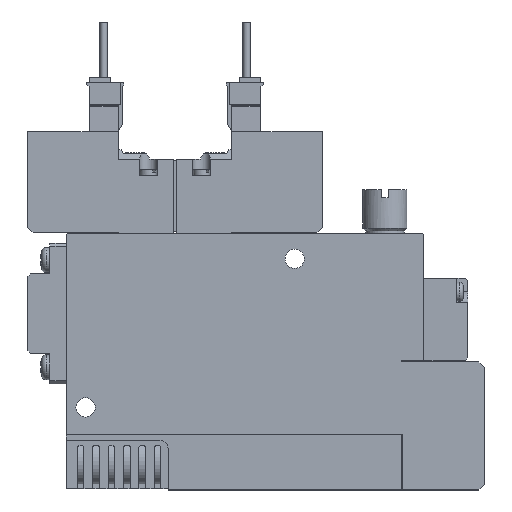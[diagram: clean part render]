
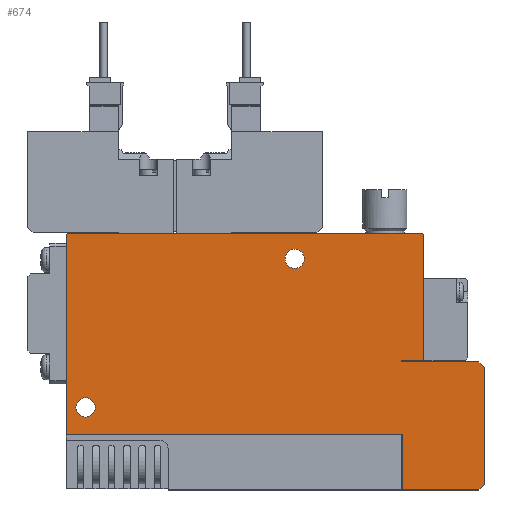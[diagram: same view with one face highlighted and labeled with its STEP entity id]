
A CAD part, top view. The second image highlights one B-rep face of the part: STEP entity #674.
In plain terms, the highlighted planar face has unit normal (0, 0, 1).
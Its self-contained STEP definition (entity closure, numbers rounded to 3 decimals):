
#674=ADVANCED_FACE('',(#1517,#1518,#1519),#1520,.F.);
#1517=FACE_OUTER_BOUND('',#2477,.T.);
#1518=FACE_BOUND('',#2478,.T.);
#1519=FACE_BOUND('',#2479,.T.);
#1520=PLANE('',#2480);
#2477=EDGE_LOOP('',(#5620,#5621,#5622,#5623,#5624,#5625,#5626,#5627,#5628,#5629,#5630,#5631,#5632,#5633));
#2478=EDGE_LOOP('',(#5634));
#2479=EDGE_LOOP('',(#5635));
#2480=AXIS2_PLACEMENT_3D('',#5636,#5637,#5638);
#5620=ORIENTED_EDGE('',*,*,#7233,.T.);
#5621=ORIENTED_EDGE('',*,*,#7408,.F.);
#5622=ORIENTED_EDGE('',*,*,#7409,.F.);
#5623=ORIENTED_EDGE('',*,*,#7410,.T.);
#5624=ORIENTED_EDGE('',*,*,#7406,.T.);
#5625=ORIENTED_EDGE('',*,*,#7399,.T.);
#5626=ORIENTED_EDGE('',*,*,#7215,.T.);
#5627=ORIENTED_EDGE('',*,*,#7411,.T.);
#5628=ORIENTED_EDGE('',*,*,#7412,.T.);
#5629=ORIENTED_EDGE('',*,*,#7413,.T.);
#5630=ORIENTED_EDGE('',*,*,#7150,.T.);
#5631=ORIENTED_EDGE('',*,*,#7094,.T.);
#5632=ORIENTED_EDGE('',*,*,#7154,.T.);
#5633=ORIENTED_EDGE('',*,*,#7209,.T.);
#5634=ORIENTED_EDGE('',*,*,#7414,.F.);
#5635=ORIENTED_EDGE('',*,*,#7415,.F.);
#5636=CARTESIAN_POINT('',(0.0,0.0,5.0));
#5637=DIRECTION('',(0.0,0.0,-1.0));
#5638=DIRECTION('',(0.0,-1.0,0.0));
#7094=EDGE_CURVE('',#8754,#8752,#8755,.T.);
#7150=EDGE_CURVE('',#8859,#8754,#8860,.T.);
#7154=EDGE_CURVE('',#8752,#8864,#8866,.T.);
#7209=EDGE_CURVE('',#8864,#8967,#8969,.T.);
#7215=EDGE_CURVE('',#8979,#8977,#8980,.T.);
#7233=EDGE_CURVE('',#8967,#9010,#9012,.T.);
#7399=EDGE_CURVE('',#9280,#8979,#9281,.T.);
#7406=EDGE_CURVE('',#9290,#9280,#9291,.T.);
#7408=EDGE_CURVE('',#9293,#9010,#9294,.T.);
#7409=EDGE_CURVE('',#9295,#9293,#9296,.T.);
#7410=EDGE_CURVE('',#9295,#9290,#9297,.T.);
#7411=EDGE_CURVE('',#8977,#9298,#9299,.T.);
#7412=EDGE_CURVE('',#9298,#9300,#9301,.T.);
#7413=EDGE_CURVE('',#9300,#8859,#9302,.T.);
#7414=EDGE_CURVE('',#9303,#9303,#9304,.T.);
#7415=EDGE_CURVE('',#9305,#9305,#9306,.T.);
#8752=VERTEX_POINT('',#11438);
#8754=VERTEX_POINT('',#11441);
#8755=LINE('',#11442,#11443);
#8859=VERTEX_POINT('',#11667);
#8860=LINE('',#11668,#11669);
#8864=VERTEX_POINT('',#11675);
#8866=LINE('',#11678,#11679);
#8967=VERTEX_POINT('',#11878);
#8969=LINE('',#11881,#11882);
#8977=VERTEX_POINT('',#11893);
#8979=VERTEX_POINT('',#11896);
#8980=LINE('',#11897,#11898);
#9010=VERTEX_POINT('',#11942);
#9012=LINE('',#11945,#11946);
#9280=VERTEX_POINT('',#12352);
#9281=LINE('',#12353,#12354);
#9290=VERTEX_POINT('',#12376);
#9291=LINE('',#12377,#12378);
#9293=VERTEX_POINT('',#12381);
#9294=LINE('',#12382,#12383);
#9295=VERTEX_POINT('',#12384);
#9296=LINE('',#12385,#12386);
#9297=LINE('',#12387,#12388);
#9298=VERTEX_POINT('',#12389);
#9299=LINE('',#12390,#12391);
#9300=VERTEX_POINT('',#12392);
#9301=LINE('',#12393,#12394);
#9302=LINE('',#12395,#12396);
#9303=VERTEX_POINT('',#12397);
#9304=CIRCLE('',#12398,1.75);
#9305=VERTEX_POINT('',#12399);
#9306=CIRCLE('',#12400,1.75);
#11438=CARTESIAN_POINT('',(64.8,46.6,5.0));
#11441=CARTESIAN_POINT('',(65.0,46.4,5.0));
#11442=CARTESIAN_POINT('',(65.0,46.4,5.0));
#11443=VECTOR('',#13792,1.0);
#11667=CARTESIAN_POINT('',(65.0,23.5,5.0));
#11668=CARTESIAN_POINT('',(65.0,23.5,5.0));
#11669=VECTOR('',#13863,1.0);
#11675=CARTESIAN_POINT('',(0.2,46.6,5.0));
#11678=CARTESIAN_POINT('',(64.8,46.6,5.0));
#11679=VECTOR('',#13867,1.0);
#11878=CARTESIAN_POINT('',(0.0,46.4,5.0));
#11881=CARTESIAN_POINT('',(0.2,46.6,5.0));
#11882=VECTOR('',#13943,1.0);
#11893=CARTESIAN_POINT('',(75.0,23.25,5.0));
#11896=CARTESIAN_POINT('',(76.0,22.25,5.0));
#11897=CARTESIAN_POINT('',(76.0,22.25,5.0));
#11898=VECTOR('',#13951,1.0);
#11942=CARTESIAN_POINT('',(0.0,10.1,5.0));
#11945=CARTESIAN_POINT('',(0.0,46.4,5.0));
#11946=VECTOR('',#13973,1.0);
#12352=CARTESIAN_POINT('',(76.0,1.0,5.0));
#12353=CARTESIAN_POINT('',(76.0,1.0,5.0));
#12354=VECTOR('',#14208,1.0);
#12376=CARTESIAN_POINT('',(75.0,0.0,5.0));
#12377=CARTESIAN_POINT('',(75.0,0.0,5.0));
#12378=VECTOR('',#14216,1.0);
#12381=CARTESIAN_POINT('',(61.1,10.1,5.0));
#12382=CARTESIAN_POINT('',(61.1,10.1,5.0));
#12383=VECTOR('',#14218,1.0);
#12384=CARTESIAN_POINT('',(61.1,0.0,5.0));
#12385=CARTESIAN_POINT('',(61.1,0.0,5.0));
#12386=VECTOR('',#14219,1.0);
#12387=CARTESIAN_POINT('',(0.0,0.0,5.0));
#12388=VECTOR('',#14220,1.0);
#12389=CARTESIAN_POINT('',(61.0,23.25,5.0));
#12390=CARTESIAN_POINT('',(75.0,23.25,5.0));
#12391=VECTOR('',#14221,1.0);
#12392=CARTESIAN_POINT('',(61.0,23.5,5.0));
#12393=CARTESIAN_POINT('',(61.0,23.25,5.0));
#12394=VECTOR('',#14222,1.0);
#12395=CARTESIAN_POINT('',(61.0,23.5,5.0));
#12396=VECTOR('',#14223,1.0);
#12397=CARTESIAN_POINT('',(5.25,15.0,5.0));
#12398=AXIS2_PLACEMENT_3D('',#14224,#14225,#14226);
#12399=CARTESIAN_POINT('',(43.25,42.0,5.0));
#12400=AXIS2_PLACEMENT_3D('',#14227,#14228,#14229);
#13792=DIRECTION('',(-0.707,0.707,0.0));
#13863=DIRECTION('',(0.0,1.0,0.0));
#13867=DIRECTION('',(-1.0,0.0,0.0));
#13943=DIRECTION('',(-0.707,-0.707,0.0));
#13951=DIRECTION('',(-0.707,0.707,0.0));
#13973=DIRECTION('',(0.0,-1.0,0.0));
#14208=DIRECTION('',(0.0,1.0,0.0));
#14216=DIRECTION('',(0.707,0.707,0.0));
#14218=DIRECTION('',(-1.0,0.0,0.0));
#14219=DIRECTION('',(0.0,1.0,0.0));
#14220=DIRECTION('',(1.0,0.0,0.0));
#14221=DIRECTION('',(-1.0,0.0,0.0));
#14222=DIRECTION('',(0.0,1.0,0.0));
#14223=DIRECTION('',(1.0,0.,0.0));
#14224=CARTESIAN_POINT('',(3.5,15.0,5.0));
#14225=DIRECTION('',(0.0,0.0,1.0));
#14226=DIRECTION('',(1.0,0.0,0.0));
#14227=CARTESIAN_POINT('',(41.5,42.0,5.0));
#14228=DIRECTION('',(0.0,0.0,1.0));
#14229=DIRECTION('',(1.0,0.0,0.0));
